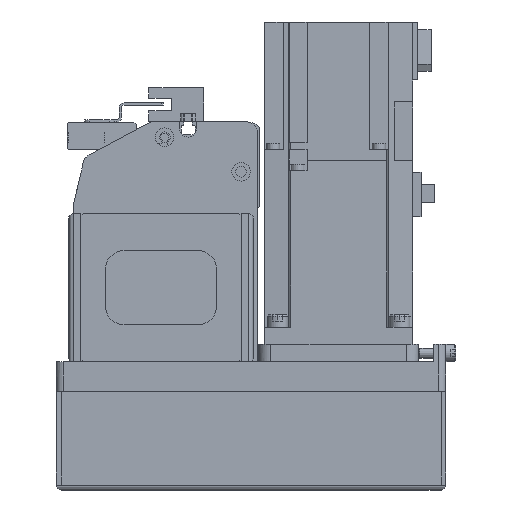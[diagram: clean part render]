
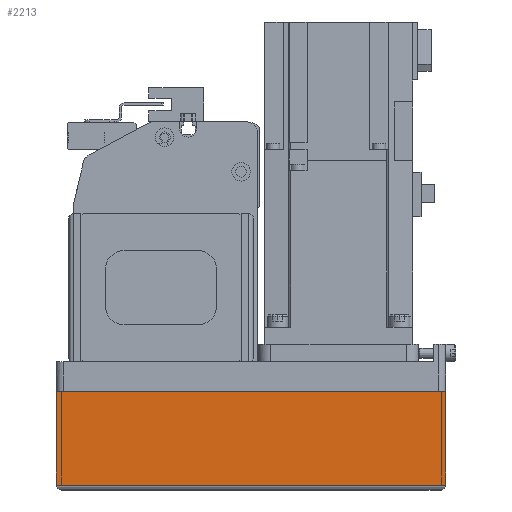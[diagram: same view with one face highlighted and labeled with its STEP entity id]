
A CAD part, left-side view. The second image highlights one B-rep face of the part: STEP entity #2213.
In plain terms, the highlighted planar face has unit normal (-1, 0, 0) as drawn and (0, 1, 0) by its records, which use the part's own axes.
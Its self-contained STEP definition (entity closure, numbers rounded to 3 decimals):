
#2213 = ADVANCED_FACE( '', ( #5068 ), #5069, .T. );
#5068 = FACE_OUTER_BOUND( '', #8561, .T. );
#5069 = PLANE( '', #8562 );
#8561 = EDGE_LOOP( '', ( #14770, #14771, #14772, #14773 ) );
#8562 = AXIS2_PLACEMENT_3D( '', #14774, #14775, #14776 );
#14770 = ORIENTED_EDGE( '', *, *, #21917, .F. );
#14771 = ORIENTED_EDGE( '', *, *, #21918, .F. );
#14772 = ORIENTED_EDGE( '', *, *, #21919, .T. );
#14773 = ORIENTED_EDGE( '', *, *, #20719, .T. );
#14774 = CARTESIAN_POINT( '', ( -158., 39., -50. ) );
#14775 = DIRECTION( '', ( 0., 1., 0. ) );
#14776 = DIRECTION( '', ( 0., 0., 1. ) );
#20719 = EDGE_CURVE( '', #25133, #25131, #25134, .T. );
#21917 = EDGE_CURVE( '', #26979, #25131, #26980, .T. );
#21918 = EDGE_CURVE( '', #26981, #26979, #26982, .T. );
#21919 = EDGE_CURVE( '', #26981, #25133, #26983, .T. );
#25131 = VERTEX_POINT( '', #31499 );
#25133 = VERTEX_POINT( '', #31502 );
#25134 = LINE( '', #31503, #31504 );
#26979 = VERTEX_POINT( '', #34359 );
#26980 = LINE( '', #34360, #34361 );
#26981 = VERTEX_POINT( '', #34362 );
#26982 = LINE( '', #34363, #34364 );
#26983 = LINE( '', #34365, #34366 );
#31499 = CARTESIAN_POINT( '', ( 0., 39., -12.1 ) );
#31502 = CARTESIAN_POINT( '', ( -158., 39., -12.1 ) );
#31503 = CARTESIAN_POINT( '', ( -158., 39., -12.1 ) );
#31504 = VECTOR( '', #38162, 1000. );
#34359 = CARTESIAN_POINT( '', ( 0., 39., -50. ) );
#34360 = CARTESIAN_POINT( '', ( 0., 39., -50. ) );
#34361 = VECTOR( '', #39583, 1000. );
#34362 = CARTESIAN_POINT( '', ( -158., 39., -50. ) );
#34363 = CARTESIAN_POINT( '', ( -158., 39., -50. ) );
#34364 = VECTOR( '', #39584, 1000. );
#34365 = CARTESIAN_POINT( '', ( -158., 39., -50. ) );
#34366 = VECTOR( '', #39585, 1000. );
#38162 = DIRECTION( '', ( 1., 0., 0. ) );
#39583 = DIRECTION( '', ( 0., 0., 1. ) );
#39584 = DIRECTION( '', ( 1., 0., 0. ) );
#39585 = DIRECTION( '', ( 0., 0., 1. ) );
